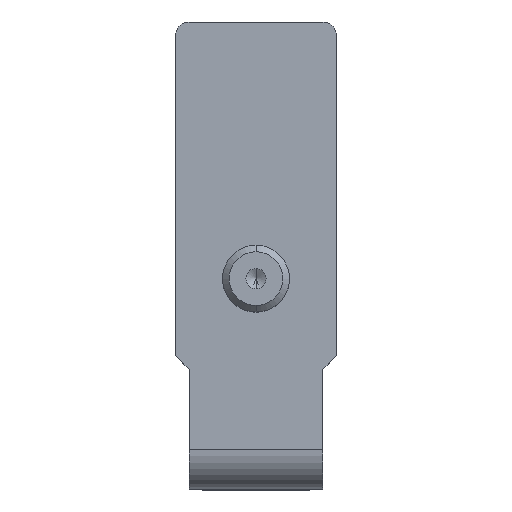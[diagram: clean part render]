
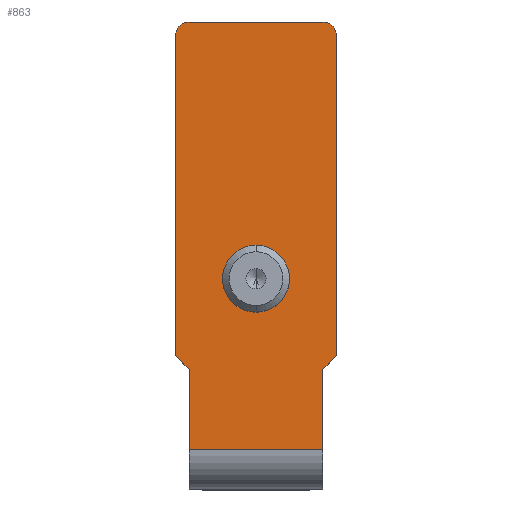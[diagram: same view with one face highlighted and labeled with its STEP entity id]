
A CAD part, top view. The second image highlights one B-rep face of the part: STEP entity #863.
In plain terms, the highlighted planar face has unit normal (0, 0, 1).
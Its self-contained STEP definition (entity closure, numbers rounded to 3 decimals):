
#278=DIRECTION('',(1.,0.,0.));
#279=VECTOR('',#278,10.);
#280=CARTESIAN_POINT('',(-5.,3.,20.));
#281=LINE('',#280,#279);
#308=CARTESIAN_POINT('',(0.,15.75,20.));
#309=DIRECTION('',(0.,0.,1.));
#310=DIRECTION('',(-1.,0.,0.));
#311=AXIS2_PLACEMENT_3D('',#308,#309,#310);
#316=CARTESIAN_POINT('',(0.,15.75,20.));
#317=DIRECTION('',(0.,0.,1.));
#318=DIRECTION('',(1.,0.,0.));
#319=AXIS2_PLACEMENT_3D('',#316,#317,#318);
#324=CARTESIAN_POINT('',(5.,33.95,20.));
#325=DIRECTION('',(0.,0.,1.));
#326=DIRECTION('',(1.,0.,0.));
#327=AXIS2_PLACEMENT_3D('',#324,#325,#326);
#332=DIRECTION('',(0.,1.,0.));
#333=VECTOR('',#332,23.95);
#334=CARTESIAN_POINT('',(6.,10.,20.));
#335=LINE('',#334,#333);
#339=DIRECTION('',(0.707,0.707,0.));
#340=VECTOR('',#339,1.414);
#341=CARTESIAN_POINT('',(5.,9.,20.));
#342=LINE('',#341,#340);
#346=DIRECTION('',(0.,1.,0.));
#347=VECTOR('',#346,6.);
#348=CARTESIAN_POINT('',(5.,3.,20.));
#349=LINE('',#348,#347);
#353=DIRECTION('',(0.,-1.,0.));
#354=VECTOR('',#353,6.);
#355=CARTESIAN_POINT('',(-5.,9.,20.));
#356=LINE('',#355,#354);
#360=DIRECTION('',(0.707,-0.707,0.));
#361=VECTOR('',#360,1.414);
#362=CARTESIAN_POINT('',(-6.,10.,20.));
#363=LINE('',#362,#361);
#367=DIRECTION('',(0.,-1.,0.));
#368=VECTOR('',#367,23.95);
#369=CARTESIAN_POINT('',(-6.,33.95,20.));
#370=LINE('',#369,#368);
#374=CARTESIAN_POINT('',(-5.,33.95,20.));
#375=DIRECTION('',(0.,0.,1.));
#376=DIRECTION('',(0.,1.,0.));
#377=AXIS2_PLACEMENT_3D('',#374,#375,#376);
#382=DIRECTION('',(-1.,0.,0.));
#383=VECTOR('',#382,10.);
#384=CARTESIAN_POINT('',(5.,34.95,20.));
#385=LINE('',#384,#383);
#599=CARTESIAN_POINT('',(-2.5,15.75,20.));
#600=CARTESIAN_POINT('',(2.5,15.75,20.));
#601=VERTEX_POINT('',#599);
#602=VERTEX_POINT('',#600);
#607=CARTESIAN_POINT('',(5.,3.,20.));
#608=CARTESIAN_POINT('',(5.,9.,20.));
#609=VERTEX_POINT('',#607);
#610=VERTEX_POINT('',#608);
#611=CARTESIAN_POINT('',(6.,10.,20.));
#612=VERTEX_POINT('',#611);
#613=CARTESIAN_POINT('',(-6.,10.,20.));
#614=CARTESIAN_POINT('',(-5.,9.,20.));
#615=VERTEX_POINT('',#613);
#616=VERTEX_POINT('',#614);
#617=CARTESIAN_POINT('',(-5.,3.,20.));
#618=VERTEX_POINT('',#617);
#655=CARTESIAN_POINT('',(6.,33.95,20.));
#656=CARTESIAN_POINT('',(5.,34.95,20.));
#657=VERTEX_POINT('',#655);
#658=VERTEX_POINT('',#656);
#663=CARTESIAN_POINT('',(-5.,34.95,20.));
#664=CARTESIAN_POINT('',(-6.,33.95,20.));
#665=VERTEX_POINT('',#663);
#666=VERTEX_POINT('',#664);
#831=CARTESIAN_POINT('',(-2.624,0.,20.));
#832=DIRECTION('',(0.,0.,1.));
#833=DIRECTION('',(1.,0.,0.));
#834=AXIS2_PLACEMENT_3D('',#831,#832,#833);
#835=PLANE('',#834);
#837=ORIENTED_EDGE('',*,*,#836,.F.);
#839=ORIENTED_EDGE('',*,*,#838,.F.);
#841=ORIENTED_EDGE('',*,*,#840,.F.);
#843=ORIENTED_EDGE('',*,*,#842,.F.);
#844=ORIENTED_EDGE('',*,*,#822,.F.);
#846=ORIENTED_EDGE('',*,*,#845,.F.);
#848=ORIENTED_EDGE('',*,*,#847,.F.);
#850=ORIENTED_EDGE('',*,*,#849,.F.);
#852=ORIENTED_EDGE('',*,*,#851,.F.);
#854=ORIENTED_EDGE('',*,*,#853,.F.);
#855=EDGE_LOOP('',(#837,#839,#841,#843,#844,#846,#848,#850,#852,#854));
#856=FACE_OUTER_BOUND('',#855,.F.);
#858=ORIENTED_EDGE('',*,*,#857,.T.);
#860=ORIENTED_EDGE('',*,*,#859,.T.);
#861=EDGE_LOOP('',(#858,#860));
#862=FACE_BOUND('',#861,.F.);
#863=ADVANCED_FACE('',(#856,#862),#835,.T.);
#312=CIRCLE('',#311,2.5);
#320=CIRCLE('',#319,2.5);
#328=CIRCLE('',#327,1.);
#378=CIRCLE('',#377,1.);
#822=EDGE_CURVE('',#618,#609,#281,.T.);
#836=EDGE_CURVE('',#657,#658,#328,.T.);
#838=EDGE_CURVE('',#612,#657,#335,.T.);
#840=EDGE_CURVE('',#610,#612,#342,.T.);
#842=EDGE_CURVE('',#609,#610,#349,.T.);
#845=EDGE_CURVE('',#616,#618,#356,.T.);
#847=EDGE_CURVE('',#615,#616,#363,.T.);
#849=EDGE_CURVE('',#666,#615,#370,.T.);
#851=EDGE_CURVE('',#665,#666,#378,.T.);
#853=EDGE_CURVE('',#658,#665,#385,.T.);
#857=EDGE_CURVE('',#601,#602,#312,.T.);
#859=EDGE_CURVE('',#602,#601,#320,.T.);
